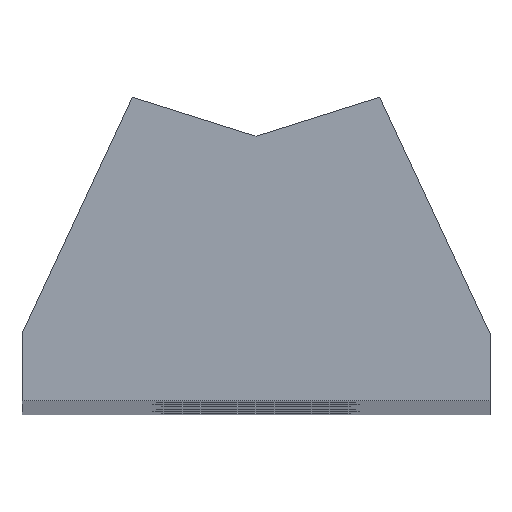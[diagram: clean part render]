
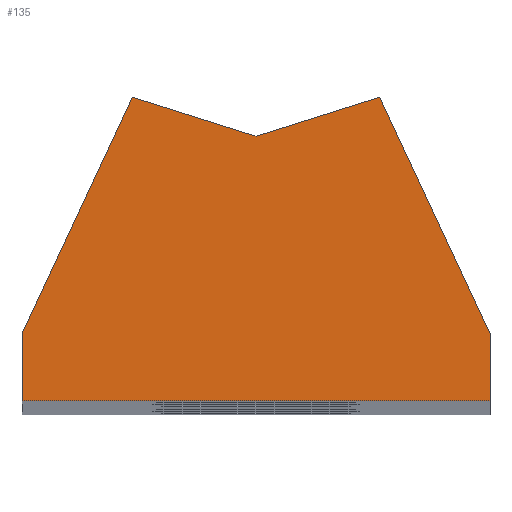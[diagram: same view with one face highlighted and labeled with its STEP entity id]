
A CAD part, top view. The second image highlights one B-rep face of the part: STEP entity #135.
In plain terms, the highlighted planar face has unit normal (0, 0, 1).
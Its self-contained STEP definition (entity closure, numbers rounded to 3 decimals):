
#1 = VERTEX_POINT ( 'NONE', #711 ) ;
#19 = EDGE_CURVE ( 'NONE', #562, #425, #310, .T. ) ;
#30 = DIRECTION ( 'NONE',  ( 1., 0., 0. ) ) ;
#48 = VERTEX_POINT ( 'NONE', #533 ) ;
#56 = VECTOR ( 'NONE', #529, 1000. ) ;
#58 = LINE ( 'NONE', #735, #751 ) ;
#72 = EDGE_LOOP ( 'NONE', ( #357, #209, #824, #337, #255, #491, #144 ) ) ;
#74 = EDGE_CURVE ( 'NONE', #1, #419, #786, .T. ) ;
#91 = LINE ( 'NONE', #713, #649 ) ;
#116 = AXIS2_PLACEMENT_3D ( 'NONE', #709, #294, #849 ) ;
#129 = CARTESIAN_POINT ( 'NONE',  ( -17.5, 0., 299.75 ) ) ;
#132 = CARTESIAN_POINT ( 'NONE',  ( 17.5, 0., 299.75 ) ) ;
#135 = ADVANCED_FACE ( 'NONE', ( #319 ), #727, .T. ) ;
#144 = ORIENTED_EDGE ( 'NONE', *, *, #424, .T. ) ;
#155 = DIRECTION ( 'NONE',  ( -0.954, -0.301, 0. ) ) ;
#209 = ORIENTED_EDGE ( 'NONE', *, *, #19, .T. ) ;
#255 = ORIENTED_EDGE ( 'NONE', *, *, #888, .T. ) ;
#275 = DIRECTION ( 'NONE',  ( 0., 1., 0. ) ) ;
#293 = VECTOR ( 'NONE', #155, 1000. ) ;
#294 = DIRECTION ( 'NONE',  ( 0., 0., 1. ) ) ;
#310 = LINE ( 'NONE', #448, #56 ) ;
#313 = DIRECTION ( 'NONE',  ( -0.954, 0.301, 0. ) ) ;
#319 = FACE_OUTER_BOUND ( 'NONE', #72, .T. ) ;
#327 = VECTOR ( 'NONE', #714, 1000. ) ;
#337 = ORIENTED_EDGE ( 'NONE', *, *, #501, .T. ) ;
#347 = VERTEX_POINT ( 'NONE', #129 ) ;
#354 = EDGE_CURVE ( 'NONE', #425, #347, #858, .T. ) ;
#357 = ORIENTED_EDGE ( 'NONE', *, *, #747, .T. ) ;
#362 = CARTESIAN_POINT ( 'NONE',  ( -17.5, 5.011, 299.75 ) ) ;
#377 = CARTESIAN_POINT ( 'NONE',  ( 9.25, 22.703, 299.75 ) ) ;
#397 = CARTESIAN_POINT ( 'NONE',  ( -9.25, 22.703, 299.75 ) ) ;
#419 = VERTEX_POINT ( 'NONE', #596 ) ;
#424 = EDGE_CURVE ( 'NONE', #419, #771, #836, .T. ) ;
#425 = VERTEX_POINT ( 'NONE', #362 ) ;
#448 = CARTESIAN_POINT ( 'NONE',  ( -9.25, 22.703, 299.75 ) ) ;
#491 = ORIENTED_EDGE ( 'NONE', *, *, #74, .T. ) ;
#501 = EDGE_CURVE ( 'NONE', #347, #48, #91, .T. ) ;
#513 = CARTESIAN_POINT ( 'NONE',  ( 17.5, 5.011, 299.75 ) ) ;
#529 = DIRECTION ( 'NONE',  ( -0.423, -0.906, 0. ) ) ;
#533 = CARTESIAN_POINT ( 'NONE',  ( 17.5, 0., 299.75 ) ) ;
#562 = VERTEX_POINT ( 'NONE', #397 ) ;
#596 = CARTESIAN_POINT ( 'NONE',  ( 9.25, 22.703, 299.75 ) ) ;
#649 = VECTOR ( 'NONE', #30, 1000. ) ;
#693 = LINE ( 'NONE', #132, #701 ) ;
#701 = VECTOR ( 'NONE', #275, 1000. ) ;
#709 = CARTESIAN_POINT ( 'NONE',  ( 0., 0., 299.75 ) ) ;
#711 = CARTESIAN_POINT ( 'NONE',  ( 17.5, 5.011, 299.75 ) ) ;
#713 = CARTESIAN_POINT ( 'NONE',  ( -17.5, 0., 299.75 ) ) ;
#714 = DIRECTION ( 'NONE',  ( 0., -1., 0. ) ) ;
#718 = VECTOR ( 'NONE', #796, 1000. ) ;
#727 = PLANE ( 'NONE',  #116 ) ;
#735 = CARTESIAN_POINT ( 'NONE',  ( 0., 19.787, 299.75 ) ) ;
#745 = CARTESIAN_POINT ( 'NONE',  ( 0., 19.787, 299.75 ) ) ;
#747 = EDGE_CURVE ( 'NONE', #771, #562, #58, .T. ) ;
#751 = VECTOR ( 'NONE', #313, 1000. ) ;
#771 = VERTEX_POINT ( 'NONE', #745 ) ;
#786 = LINE ( 'NONE', #513, #718 ) ;
#788 = CARTESIAN_POINT ( 'NONE',  ( -17.5, 5.011, 299.75 ) ) ;
#796 = DIRECTION ( 'NONE',  ( -0.423, 0.906, 0. ) ) ;
#824 = ORIENTED_EDGE ( 'NONE', *, *, #354, .T. ) ;
#836 = LINE ( 'NONE', #377, #293 ) ;
#849 = DIRECTION ( 'NONE',  ( 1., 0., 0. ) ) ;
#858 = LINE ( 'NONE', #788, #327 ) ;
#888 = EDGE_CURVE ( 'NONE', #48, #1, #693, .T. ) ;
